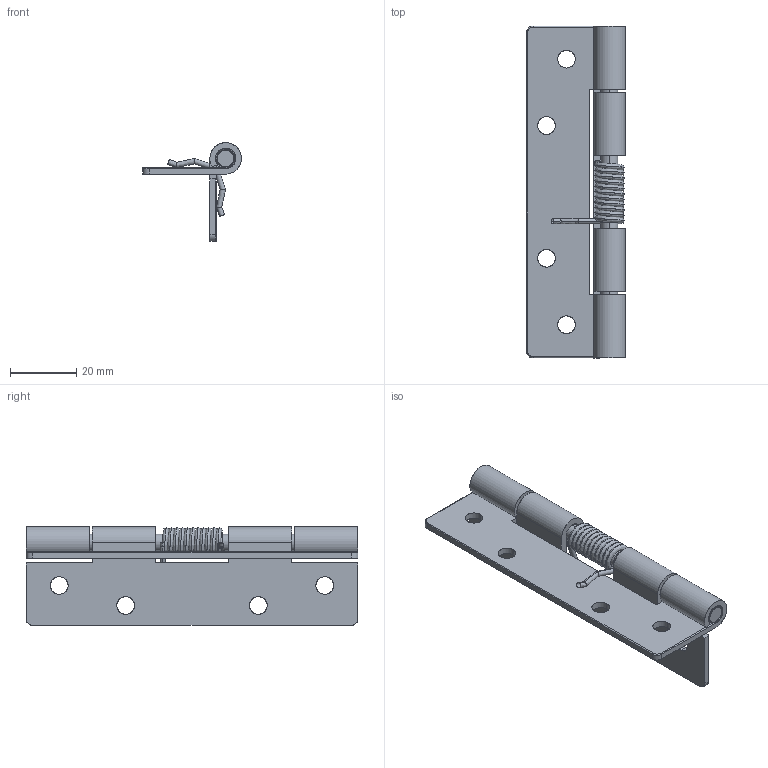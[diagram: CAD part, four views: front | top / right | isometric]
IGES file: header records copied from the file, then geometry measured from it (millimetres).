
Start section: SolidWorks IGES FILE using analytic representation for surfaces
Global section: file name: E:\妙子\仕事\solidworks\ヒンジ0829\DEH-56S\DEH-56S-3\DEH-56S-3.IGS; native system: SolidWorks 2003 by SolidWorks Corporation; preprocessor: Version 5.3; author: 妙子,,; organization: 11; date: 130829.213041; units: millimetre
Bounding box: 29.75 x 100 x 29.75 mm (x, y, z)
Surface area: 16022.1 mm2 (no closed solid volume)
Topology: 0 solids, 0 shells, 92 faces, 1706 edges, 1706 vertices
Faces by surface type: revolution 50, bspline 42
